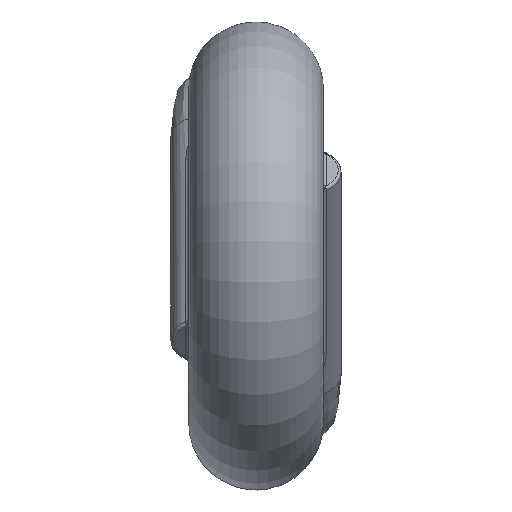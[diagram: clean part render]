
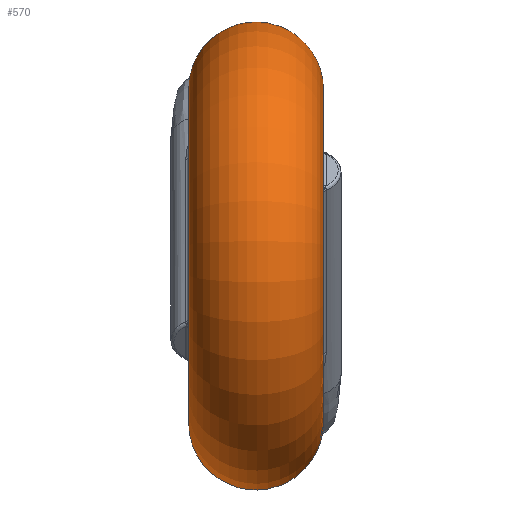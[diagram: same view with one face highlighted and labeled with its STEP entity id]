
A CAD part, left-side view. The second image highlights one B-rep face of the part: STEP entity #570.
In plain terms, the highlighted toroidal (fillet/blend) face has major radius 5.595 mm and minor radius 2.255 mm.
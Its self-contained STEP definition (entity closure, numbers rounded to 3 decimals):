
#20=TOROIDAL_SURFACE('',#632,5.595,2.255);
#81=B_SPLINE_CURVE_WITH_KNOTS('',3,(#1660,#1661,#1662,#1663,#1664,#1665,
#1666,#1667,#1668,#1669,#1670,#1671,#1672,#1673,#1674,#1675,#1676),
 .UNSPECIFIED.,.F.,.F.,(4,1,1,1,1,1,1,1,1,1,1,1,1,1,4),(-0.805,
-0.747,-0.69,-0.632,-0.575,
-0.517,-0.46,-0.402,-0.345,
-0.287,-0.23,-0.172,-0.115,
-0.057,0.),.UNSPECIFIED.);
#82=B_SPLINE_CURVE_WITH_KNOTS('',3,(#1682,#1683,#1684,#1685,#1686,#1687,
#1688,#1689,#1690,#1691,#1692,#1693,#1694,#1695,#1696,#1697),
 .UNSPECIFIED.,.F.,.F.,(4,1,1,1,1,1,1,1,1,1,1,1,1,4),(-0.805,
-0.747,-0.69,-0.575,-0.517,
-0.46,-0.402,-0.345,-0.287,
-0.23,-0.172,-0.115,-0.057,
0.),.UNSPECIFIED.);
#97=FACE_BOUND('',#171,.T.);
#129=FACE_OUTER_BOUND('',#170,.T.);
#170=EDGE_LOOP('',(#453,#454));
#171=EDGE_LOOP('',(#455,#456));
#215=CIRCLE('',#633,5.595);
#216=CIRCLE('',#634,5.595);
#259=VERTEX_POINT('',#1570);
#260=VERTEX_POINT('',#1658);
#261=VERTEX_POINT('',#1680);
#262=VERTEX_POINT('',#1681);
#330=EDGE_CURVE('',#260,#259,#81,.T.);
#332=EDGE_CURVE('',#261,#262,#82,.T.);
#333=EDGE_CURVE('',#261,#262,#215,.T.);
#334=EDGE_CURVE('',#260,#259,#216,.T.);
#453=ORIENTED_EDGE('',*,*,#332,.T.);
#454=ORIENTED_EDGE('',*,*,#333,.F.);
#455=ORIENTED_EDGE('',*,*,#330,.T.);
#456=ORIENTED_EDGE('',*,*,#334,.F.);
#570=ADVANCED_FACE('',(#129,#97),#20,.T.);
#632=AXIS2_PLACEMENT_3D('',#1679,#759,#760);
#633=AXIS2_PLACEMENT_3D('',#1698,#761,#762);
#634=AXIS2_PLACEMENT_3D('',#1699,#763,#764);
#759=DIRECTION('center_axis',(0.,1.,0.));
#760=DIRECTION('ref_axis',(1.,0.,0.));
#761=DIRECTION('center_axis',(0.,-1.,0.));
#762=DIRECTION('ref_axis',(-1.,0.,0.));
#763=DIRECTION('center_axis',(0.,1.,0.));
#764=DIRECTION('ref_axis',(-1.,0.,0.));
#1570=CARTESIAN_POINT('',(4.483,3.7,3.348));
#1658=CARTESIAN_POINT('',(5.427,3.7,1.361));
#1660=CARTESIAN_POINT('Ctrl Pts',(5.427,3.7,1.361));
#1661=CARTESIAN_POINT('Ctrl Pts',(5.549,3.7,1.494));
#1662=CARTESIAN_POINT('Ctrl Pts',(5.809,3.669,1.742));
#1663=CARTESIAN_POINT('Ctrl Pts',(6.214,3.512,2.055));
#1664=CARTESIAN_POINT('Ctrl Pts',(6.578,3.247,2.341));
#1665=CARTESIAN_POINT('Ctrl Pts',(6.848,2.899,2.648));
#1666=CARTESIAN_POINT('Ctrl Pts',(6.972,2.517,3.016));
#1667=CARTESIAN_POINT('Ctrl Pts',(6.918,2.185,3.461));
#1668=CARTESIAN_POINT('Ctrl Pts',(6.702,2.011,3.961));
#1669=CARTESIAN_POINT('Ctrl Pts',(6.379,2.069,4.438));
#1670=CARTESIAN_POINT('Ctrl Pts',(6.013,2.379,4.753));
#1671=CARTESIAN_POINT('Ctrl Pts',(5.676,2.819,4.764));
#1672=CARTESIAN_POINT('Ctrl Pts',(5.39,3.205,4.525));
#1673=CARTESIAN_POINT('Ctrl Pts',(5.121,3.487,4.161));
#1674=CARTESIAN_POINT('Ctrl Pts',(4.833,3.659,3.746));
#1675=CARTESIAN_POINT('Ctrl Pts',(4.606,3.7,3.474));
#1676=CARTESIAN_POINT('Ctrl Pts',(4.483,3.7,3.348));
#1679=CARTESIAN_POINT('Origin',(0.,1.445,0.));
#1680=CARTESIAN_POINT('',(5.427,-0.81,-1.361));
#1681=CARTESIAN_POINT('',(4.483,-0.81,-3.348));
#1682=CARTESIAN_POINT('Ctrl Pts',(5.427,-0.81,-1.361));
#1683=CARTESIAN_POINT('Ctrl Pts',(5.549,-0.81,-1.494));
#1684=CARTESIAN_POINT('Ctrl Pts',(5.808,-0.778,-1.742));
#1685=CARTESIAN_POINT('Ctrl Pts',(6.349,-0.572,-2.159));
#1686=CARTESIAN_POINT('Ctrl Pts',(6.807,-0.138,-2.525));
#1687=CARTESIAN_POINT('Ctrl Pts',(6.972,0.374,-3.016));
#1688=CARTESIAN_POINT('Ctrl Pts',(6.919,0.705,-3.461));
#1689=CARTESIAN_POINT('Ctrl Pts',(6.702,0.879,-3.961));
#1690=CARTESIAN_POINT('Ctrl Pts',(6.379,0.821,-4.438));
#1691=CARTESIAN_POINT('Ctrl Pts',(6.013,0.511,-4.753));
#1692=CARTESIAN_POINT('Ctrl Pts',(5.676,0.071,-4.764));
#1693=CARTESIAN_POINT('Ctrl Pts',(5.39,-0.315,-4.525));
#1694=CARTESIAN_POINT('Ctrl Pts',(5.121,-0.597,-4.161));
#1695=CARTESIAN_POINT('Ctrl Pts',(4.833,-0.769,-3.746));
#1696=CARTESIAN_POINT('Ctrl Pts',(4.606,-0.81,-3.474));
#1697=CARTESIAN_POINT('Ctrl Pts',(4.483,-0.81,-3.348));
#1698=CARTESIAN_POINT('Origin',(0.,-0.81,0.));
#1699=CARTESIAN_POINT('Origin',(0.,3.7,0.));
